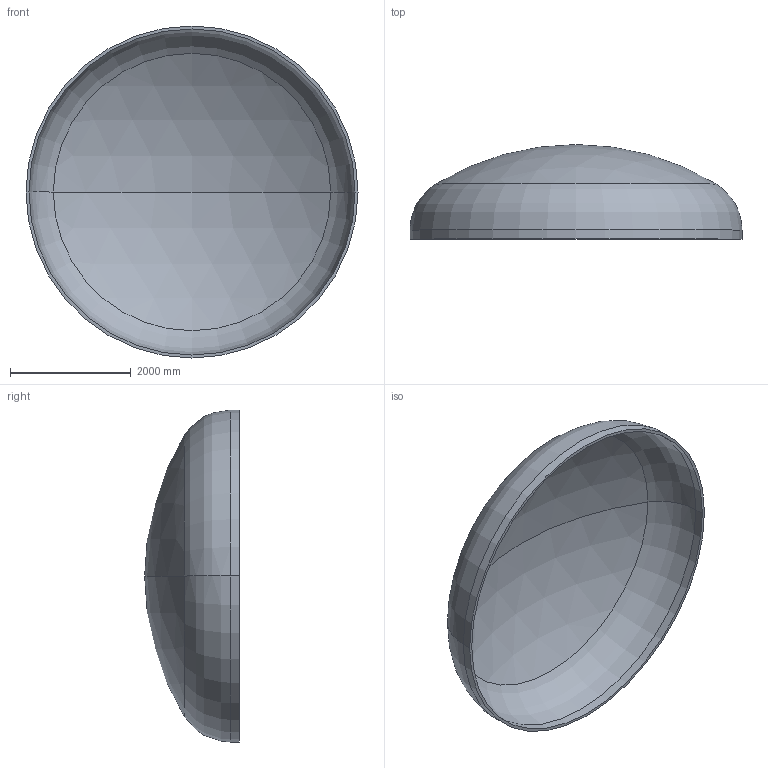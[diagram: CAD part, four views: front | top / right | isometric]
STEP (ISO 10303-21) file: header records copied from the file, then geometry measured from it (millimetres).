
FILE_DESCRIPTION (( 'STEP AP203' ), '1' );
FILE_NAME ('DIN 28013 Korbbogenform_-_Boden DIN 28013 - 5500 x 150 - I - s=49.step', '2016-07-04T10:34:22', ( '' ), ( '' ), 'SwSTEP 2.0', 'SolidWorks 2013', '' );
FILE_SCHEMA (( 'CONFIG_CONTROL_DESIGN' ));
Length unit declared in the file: millimetre
Products named in the file (1): DIN 28013 Korbbogenform_-_Boden DIN 28013 - 5500 x 150 - I - s=49
Bounding box: 5500 x 1566.96 x 5500 mm (x, y, z)
Volume: 1718589651.8 mm3; surface area: 70990635 mm2
Topology: 1 solids, 1 shells, 13 faces, 24 edges, 14 vertices
Faces by surface type: torus 4, cylinder 4, sphere 4, plane 1
Entity records: 407 total; most frequent: DIRECTION 72, CARTESIAN_POINT 52, ORIENTED_EDGE 48, AXIS2_PLACEMENT_3D 34, EDGE_CURVE 24, CIRCLE 20, VERTEX_POINT 14, EDGE_LOOP 14
